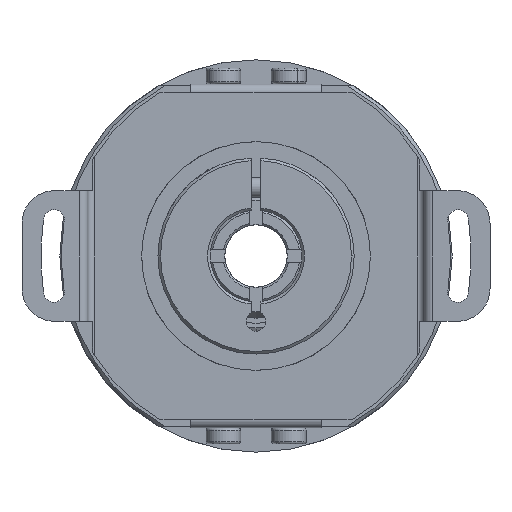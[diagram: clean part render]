
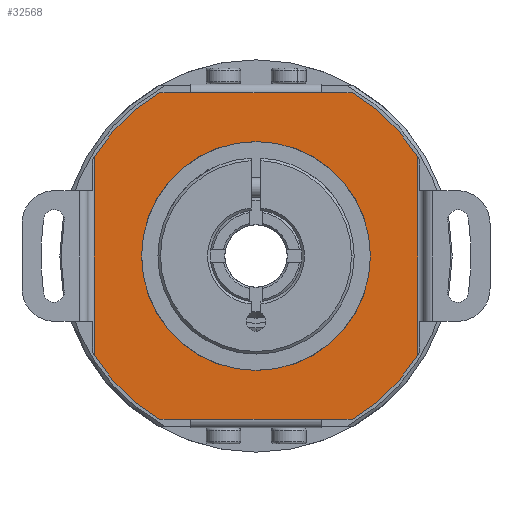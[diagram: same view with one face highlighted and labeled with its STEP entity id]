
A CAD part, front view. The second image highlights one B-rep face of the part: STEP entity #32568.
In plain terms, the highlighted planar face has unit normal (0, -1, 0).
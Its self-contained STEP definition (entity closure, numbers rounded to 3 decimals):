
#596 = VECTOR ( 'NONE', #20494, 1000. ) ;
#1408 = VERTEX_POINT ( 'NONE', #9528 ) ;
#2607 = VECTOR ( 'NONE', #27139, 1000. ) ;
#2884 = DIRECTION ( 'NONE',  ( 1., 0., 0. ) ) ;
#3053 = CARTESIAN_POINT ( 'NONE',  ( 10., -4.194, 25. ) ) ;
#3133 = VERTEX_POINT ( 'NONE', #31817 ) ;
#4158 = VERTEX_POINT ( 'NONE', #50215 ) ;
#5018 = EDGE_CURVE ( 'NONE', #45404, #1408, #48872, .T. ) ;
#5120 = CIRCLE ( 'NONE', #45784, 29. ) ;
#5361 = AXIS2_PLACEMENT_3D ( 'NONE', #40843, #49198, #45403 ) ;
#5654 = CARTESIAN_POINT ( 'NONE',  ( 0., -4.194, 0. ) ) ;
#6022 = CARTESIAN_POINT ( 'NONE',  ( 10., -4.194, -25. ) ) ;
#6106 = VERTEX_POINT ( 'NONE', #11059 ) ;
#7519 = DIRECTION ( 'NONE',  ( 0., -1., 0. ) ) ;
#7556 = CIRCLE ( 'NONE', #24681, 29. ) ;
#8785 = CIRCLE ( 'NONE', #12492, 29. ) ;
#9339 = VERTEX_POINT ( 'NONE', #30166 ) ;
#9424 = DIRECTION ( 'NONE',  ( 0., 0., 1. ) ) ;
#9428 = FACE_OUTER_BOUND ( 'NONE', #32592, .T. ) ;
#9528 = CARTESIAN_POINT ( 'NONE',  ( -10., -4.194, -25. ) ) ;
#10172 = ORIENTED_EDGE ( 'NONE', *, *, #5018, .F. ) ;
#10303 = ORIENTED_EDGE ( 'NONE', *, *, #49514, .T. ) ;
#11059 = CARTESIAN_POINT ( 'NONE',  ( 14.697, -4.194, -25. ) ) ;
#12492 = AXIS2_PLACEMENT_3D ( 'NONE', #39726, #43969, #48108 ) ;
#12536 = CARTESIAN_POINT ( 'NONE',  ( 0., -4.194, 17.5 ) ) ;
#12794 = CARTESIAN_POINT ( 'NONE',  ( -5., -4.194, -25. ) ) ;
#12861 = VECTOR ( 'NONE', #2884, 1000. ) ;
#13004 = CARTESIAN_POINT ( 'NONE',  ( -14.697, -4.194, -25. ) ) ;
#13344 = ORIENTED_EDGE ( 'NONE', *, *, #33957, .F. ) ;
#13969 = DIRECTION ( 'NONE',  ( 0., 0., -1. ) ) ;
#14384 = VERTEX_POINT ( 'NONE', #50594 ) ;
#14696 = EDGE_CURVE ( 'NONE', #1408, #27545, #48707, .T. ) ;
#14787 = EDGE_CURVE ( 'NONE', #4158, #22315, #22640, .T. ) ;
#15662 = CARTESIAN_POINT ( 'NONE',  ( 0., -4.194, 0. ) ) ;
#16369 = CARTESIAN_POINT ( 'NONE',  ( -5., -4.194, -35.2 ) ) ;
#17015 = EDGE_CURVE ( 'NONE', #42077, #47924, #36216, .T. ) ;
#17462 = ORIENTED_EDGE ( 'NONE', *, *, #20187, .T. ) ;
#18661 = EDGE_CURVE ( 'NONE', #37110, #3133, #51178, .T. ) ;
#18730 = EDGE_LOOP ( 'NONE', ( #51123, #48473 ) ) ;
#19036 = ORIENTED_EDGE ( 'NONE', *, *, #14696, .F. ) ;
#19247 = EDGE_CURVE ( 'NONE', #48092, #3133, #7556, .T. ) ;
#19261 = EDGE_CURVE ( 'NONE', #40030, #9339, #50342, .T. ) ;
#19371 = AXIS2_PLACEMENT_3D ( 'NONE', #23494, #43738, #52566 ) ;
#19467 = DIRECTION ( 'NONE',  ( -1., 0., 0. ) ) ;
#20187 = EDGE_CURVE ( 'NONE', #37110, #47924, #40351, .T. ) ;
#20192 = CARTESIAN_POINT ( 'NONE',  ( -24.7, -4.194, -35.2 ) ) ;
#20494 = DIRECTION ( 'NONE',  ( 1., 0., 0. ) ) ;
#21014 = ORIENTED_EDGE ( 'NONE', *, *, #18661, .F. ) ;
#21151 = DIRECTION ( 'NONE',  ( 0., 0., -1. ) ) ;
#22315 = VERTEX_POINT ( 'NONE', #38822 ) ;
#22640 = LINE ( 'NONE', #20192, #48661 ) ;
#23494 = CARTESIAN_POINT ( 'NONE',  ( 0., -4.194, 0. ) ) ;
#23868 = LINE ( 'NONE', #33502, #26509 ) ;
#24521 = CARTESIAN_POINT ( 'NONE',  ( -25., -4.194, -25. ) ) ;
#24681 = AXIS2_PLACEMENT_3D ( 'NONE', #15662, #7519, #44705 ) ;
#26222 = FACE_BOUND ( 'NONE', #18730, .T. ) ;
#26509 = VECTOR ( 'NONE', #9424, 1000. ) ;
#27139 = DIRECTION ( 'NONE',  ( -1., 0., 0. ) ) ;
#27545 = VERTEX_POINT ( 'NONE', #13004 ) ;
#28151 = DIRECTION ( 'NONE',  ( 0., 0., -1. ) ) ;
#28603 = VECTOR ( 'NONE', #19467, 1000. ) ;
#28737 = DIRECTION ( 'NONE',  ( -1., 0., 0. ) ) ;
#28909 = CIRCLE ( 'NONE', #30445, 17.5 ) ;
#29253 = DIRECTION ( 'NONE',  ( 0., 0., 1. ) ) ;
#29544 = ORIENTED_EDGE ( 'NONE', *, *, #49425, .T. ) ;
#29578 = DIRECTION ( 'NONE',  ( -1., 0., 0. ) ) ;
#29903 = CARTESIAN_POINT ( 'NONE',  ( 10., -4.194, -25. ) ) ;
#30166 = CARTESIAN_POINT ( 'NONE',  ( 0., -4.194, -17.5 ) ) ;
#30445 = AXIS2_PLACEMENT_3D ( 'NONE', #50035, #50212, #21151 ) ;
#30627 = ORIENTED_EDGE ( 'NONE', *, *, #14787, .F. ) ;
#31808 = CARTESIAN_POINT ( 'NONE',  ( -14.697, -4.194, 25. ) ) ;
#31817 = CARTESIAN_POINT ( 'NONE',  ( 14.697, -4.194, 25. ) ) ;
#32568 = ADVANCED_FACE ( 'NONE', ( #9428, #26222 ), #53192, .T. ) ;
#32592 = EDGE_LOOP ( 'NONE', ( #30627, #10303, #19036, #10172, #13344, #44252, #29544, #48460, #21014, #17462, #38038, #40567 ) ) ;
#33502 = CARTESIAN_POINT ( 'NONE',  ( 24.7, -4.194, -35.2 ) ) ;
#33957 = EDGE_CURVE ( 'NONE', #6106, #45404, #48021, .T. ) ;
#34776 = DIRECTION ( 'NONE',  ( 0., -1., 0. ) ) ;
#36216 = LINE ( 'NONE', #50095, #596 ) ;
#36480 = AXIS2_PLACEMENT_3D ( 'NONE', #16369, #49383, #28151 ) ;
#37110 = VERTEX_POINT ( 'NONE', #3053 ) ;
#37557 = CARTESIAN_POINT ( 'NONE',  ( 24.7, -4.194, 15.196 ) ) ;
#38038 = ORIENTED_EDGE ( 'NONE', *, *, #17015, .F. ) ;
#38822 = CARTESIAN_POINT ( 'NONE',  ( -24.7, -4.194, 15.196 ) ) ;
#39726 = CARTESIAN_POINT ( 'NONE',  ( 0., -4.194, 0. ) ) ;
#40030 = VERTEX_POINT ( 'NONE', #12536 ) ;
#40351 = LINE ( 'NONE', #48192, #28603 ) ;
#40567 = ORIENTED_EDGE ( 'NONE', *, *, #45276, .F. ) ;
#40843 = CARTESIAN_POINT ( 'NONE',  ( 0., -4.194, 0. ) ) ;
#42077 = VERTEX_POINT ( 'NONE', #31808 ) ;
#42745 = EDGE_CURVE ( 'NONE', #9339, #40030, #28909, .T. ) ;
#43562 = VECTOR ( 'NONE', #28737, 1000. ) ;
#43738 = DIRECTION ( 'NONE',  ( 0., 1., 0. ) ) ;
#43969 = DIRECTION ( 'NONE',  ( 0., 1., 0. ) ) ;
#44252 = ORIENTED_EDGE ( 'NONE', *, *, #44421, .F. ) ;
#44421 = EDGE_CURVE ( 'NONE', #14384, #6106, #50512, .T. ) ;
#44705 = DIRECTION ( 'NONE',  ( 1., 0., 0. ) ) ;
#44867 = CARTESIAN_POINT ( 'NONE',  ( -10., -4.194, 25. ) ) ;
#45276 = EDGE_CURVE ( 'NONE', #22315, #42077, #8785, .T. ) ;
#45403 = DIRECTION ( 'NONE',  ( 0., 0., -1. ) ) ;
#45404 = VERTEX_POINT ( 'NONE', #29903 ) ;
#45784 = AXIS2_PLACEMENT_3D ( 'NONE', #5654, #34776, #13969 ) ;
#47924 = VERTEX_POINT ( 'NONE', #44867 ) ;
#48021 = LINE ( 'NONE', #6022, #2607 ) ;
#48092 = VERTEX_POINT ( 'NONE', #37557 ) ;
#48108 = DIRECTION ( 'NONE',  ( 0., 0., 1. ) ) ;
#48192 = CARTESIAN_POINT ( 'NONE',  ( -5., -4.194, 25. ) ) ;
#48282 = VECTOR ( 'NONE', #29578, 1000. ) ;
#48396 = CARTESIAN_POINT ( 'NONE',  ( 25., -4.194, 25. ) ) ;
#48460 = ORIENTED_EDGE ( 'NONE', *, *, #19247, .T. ) ;
#48473 = ORIENTED_EDGE ( 'NONE', *, *, #19261, .F. ) ;
#48661 = VECTOR ( 'NONE', #29253, 1000. ) ;
#48707 = LINE ( 'NONE', #24521, #43562 ) ;
#48872 = LINE ( 'NONE', #12794, #48282 ) ;
#49198 = DIRECTION ( 'NONE',  ( 0., -1., 0. ) ) ;
#49383 = DIRECTION ( 'NONE',  ( 0., -1., 0. ) ) ;
#49425 = EDGE_CURVE ( 'NONE', #14384, #48092, #23868, .T. ) ;
#49514 = EDGE_CURVE ( 'NONE', #4158, #27545, #5120, .T. ) ;
#50035 = CARTESIAN_POINT ( 'NONE',  ( 0., -4.194, 0. ) ) ;
#50095 = CARTESIAN_POINT ( 'NONE',  ( -10., -4.194, 25. ) ) ;
#50212 = DIRECTION ( 'NONE',  ( 0., -1., 0. ) ) ;
#50215 = CARTESIAN_POINT ( 'NONE',  ( -24.7, -4.194, -15.196 ) ) ;
#50342 = CIRCLE ( 'NONE', #5361, 17.5 ) ;
#50512 = CIRCLE ( 'NONE', #19371, 29. ) ;
#50594 = CARTESIAN_POINT ( 'NONE',  ( 24.7, -4.194, -15.196 ) ) ;
#51123 = ORIENTED_EDGE ( 'NONE', *, *, #42745, .F. ) ;
#51178 = LINE ( 'NONE', #48396, #12861 ) ;
#52566 = DIRECTION ( 'NONE',  ( 0., 0., -1. ) ) ;
#53192 = PLANE ( 'NONE',  #36480 ) ;
